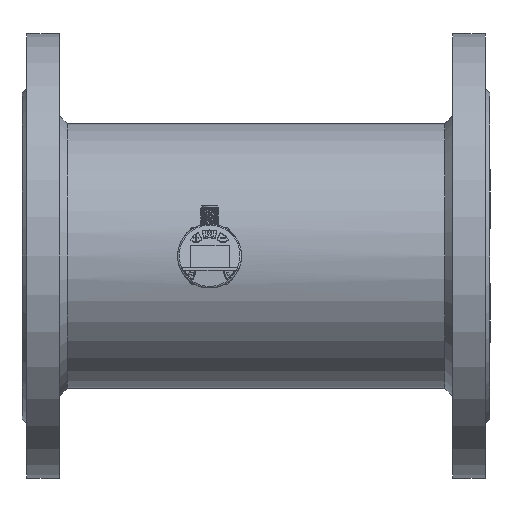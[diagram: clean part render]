
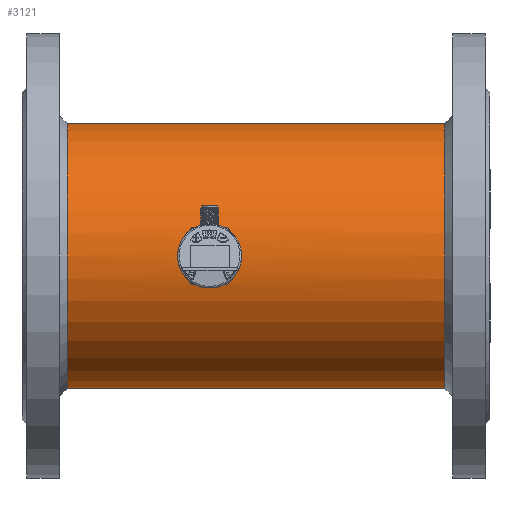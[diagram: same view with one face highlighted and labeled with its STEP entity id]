
A CAD part, left-side view. The second image highlights one B-rep face of the part: STEP entity #3121.
In plain terms, the highlighted cylindrical face has radius 85 mm (diameter 170 mm), a full revolution.
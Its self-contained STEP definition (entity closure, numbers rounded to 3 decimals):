
#2019=LINE('',#11476,#2393);
#2020=LINE('',#11489,#2394);
#2393=VECTOR('',#9473,1.);
#2394=VECTOR('',#9474,1.);
#2769=B_SPLINE_CURVE_WITH_KNOTS('',3,(#11494,#11495,#11496,#11497,#11498,
#11499,#11500,#11501,#11502,#11503),.UNSPECIFIED.,.F.,.F.,(4,2,2,2,4),(0.,
0.25,0.5,0.75,1.),.UNSPECIFIED.);
#2770=B_SPLINE_CURVE_WITH_KNOTS('',3,(#11504,#11505,#11506,#11507,#11508,
#11509,#11510,#11511,#11512,#11513),.UNSPECIFIED.,.F.,.F.,(4,2,2,2,4),(0.,
0.25,0.5,0.75,1.),.UNSPECIFIED.);
#2960=CYLINDRICAL_SURFACE('',#8597,85.);
#3121=ADVANCED_FACE('',(#3754,#3755,#3756),#2960,.T.);
#3754=FACE_BOUND('',#4035,.T.);
#3755=FACE_BOUND('',#4036,.T.);
#3756=FACE_BOUND('',#4037,.T.);
#4035=EDGE_LOOP('',(#4649,#4650,#4651,#4652));
#4036=EDGE_LOOP('',(#4653));
#4037=EDGE_LOOP('',(#4654));
#4649=ORIENTED_EDGE('',*,*,#7206,.F.);
#4650=ORIENTED_EDGE('',*,*,#7210,.T.);
#4651=ORIENTED_EDGE('',*,*,#7208,.F.);
#4652=ORIENTED_EDGE('',*,*,#7211,.T.);
#4653=ORIENTED_EDGE('',*,*,#7212,.T.);
#4654=ORIENTED_EDGE('',*,*,#7213,.T.);
#6557=VERTEX_POINT('',#11474);
#6558=VERTEX_POINT('',#11475);
#6559=VERTEX_POINT('',#11477);
#6560=VERTEX_POINT('',#11488);
#6562=VERTEX_POINT('',#11515);
#6563=VERTEX_POINT('',#11517);
#7206=EDGE_CURVE('',#6558,#6559,#2019,.T.);
#7208=EDGE_CURVE('',#6560,#6557,#2020,.T.);
#7210=EDGE_CURVE('',#6558,#6557,#2769,.T.);
#7211=EDGE_CURVE('',#6560,#6559,#2770,.T.);
#7212=EDGE_CURVE('',#6562,#6562,#8167,.T.);
#7213=EDGE_CURVE('',#6563,#6563,#8168,.T.);
#8167=CIRCLE('',#8595,85.);
#8168=CIRCLE('',#8596,85.);
#8595=AXIS2_PLACEMENT_3D('',#11514,#9481,#9482);
#8596=AXIS2_PLACEMENT_3D('',#11516,#9483,#9484);
#8597=AXIS2_PLACEMENT_3D('',#11518,#9485,#9486);
#9473=DIRECTION('',(0.,-1.,0.));
#9474=DIRECTION('',(0.,1.,0.));
#9481=DIRECTION('',(0.,-1.,0.));
#9482=DIRECTION('',(-1.,0.,0.));
#9483=DIRECTION('',(0.,1.,0.));
#9484=DIRECTION('',(1.,0.,0.));
#9485=DIRECTION('',(0.,-1.,0.));
#9486=DIRECTION('',(1.,0.,0.));
#11474=CARTESIAN_POINT('',(-83.,-72.445,18.33));
#11475=CARTESIAN_POINT('',(-83.,-72.445,-18.33));
#11476=CARTESIAN_POINT('',(-83.,-1000.,-18.33));
#11477=CARTESIAN_POINT('',(-83.,-95.238,-18.33));
#11488=CARTESIAN_POINT('',(-83.,-95.239,18.33));
#11489=CARTESIAN_POINT('',(-83.,-1000.,18.33));
#11494=CARTESIAN_POINT('',(-83.,-72.445,-18.33));
#11495=CARTESIAN_POINT('',(-83.511,-69.911,-16.017));
#11496=CARTESIAN_POINT('',(-84.04,-67.975,-13.127));
#11497=CARTESIAN_POINT('',(-84.782,-65.378,-6.851));
#11498=CARTESIAN_POINT('',(-85.001,-64.699,-3.404));
#11499=CARTESIAN_POINT('',(-84.999,-64.706,3.439));
#11500=CARTESIAN_POINT('',(-84.782,-65.379,6.867));
#11501=CARTESIAN_POINT('',(-84.031,-68.007,13.191));
#11502=CARTESIAN_POINT('',(-83.511,-69.909,16.016));
#11503=CARTESIAN_POINT('',(-83.,-72.445,18.33));
#11504=CARTESIAN_POINT('',(-83.,-95.239,18.33));
#11505=CARTESIAN_POINT('',(-83.511,-97.771,16.016));
#11506=CARTESIAN_POINT('',(-84.04,-99.706,13.126));
#11507=CARTESIAN_POINT('',(-84.782,-102.309,6.853));
#11508=CARTESIAN_POINT('',(-85.001,-102.982,3.404));
#11509=CARTESIAN_POINT('',(-84.999,-102.981,-3.437));
#11510=CARTESIAN_POINT('',(-84.782,-102.308,-6.866));
#11511=CARTESIAN_POINT('',(-84.031,-99.676,-13.187));
#11512=CARTESIAN_POINT('',(-83.511,-97.776,-16.015));
#11513=CARTESIAN_POINT('',(-83.,-95.238,-18.33));
#11514=CARTESIAN_POINT('',(0.,7.4,0.));
#11515=CARTESIAN_POINT('',(-85.,7.4,0.));
#11516=CARTESIAN_POINT('',(0.,-234.6,0.));
#11517=CARTESIAN_POINT('',(85.,-234.6,0.));
#11518=CARTESIAN_POINT('',(0.,-1000.,0.));
